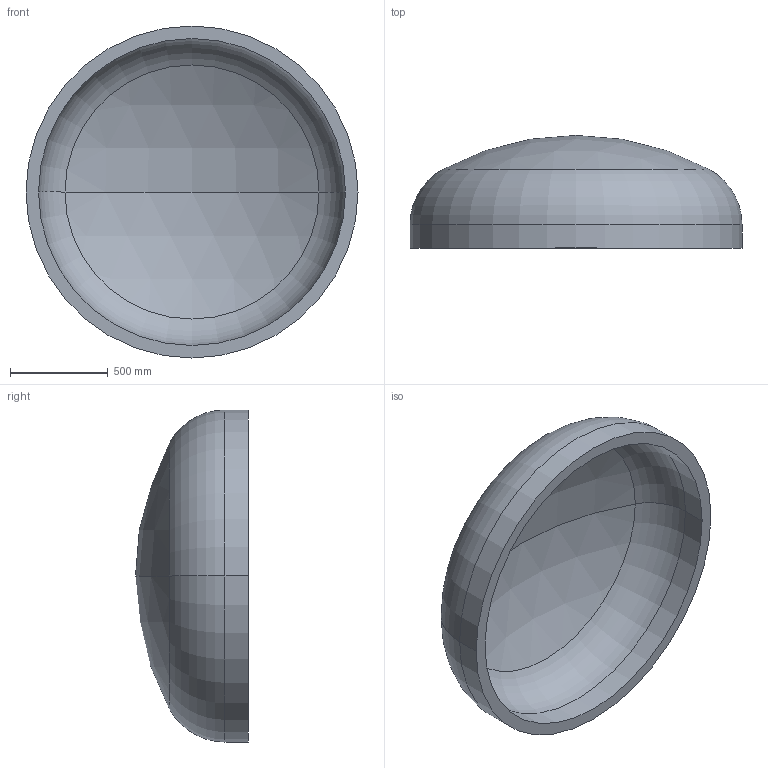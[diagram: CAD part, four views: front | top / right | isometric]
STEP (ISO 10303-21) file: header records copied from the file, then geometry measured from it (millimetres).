
FILE_DESCRIPTION (( 'STEP AP203' ), '1' );
FILE_NAME ('DIN 28013 Korbbogenform_-_Boden DIN 28013 - 1700 x 120 - I - s=64.step', '2016-07-01T11:57:01', ( '' ), ( '' ), 'SwSTEP 2.0', 'SolidWorks 2013', '' );
FILE_SCHEMA (( 'CONFIG_CONTROL_DESIGN' ));
Length unit declared in the file: millimetre
Products named in the file (1): DIN 28013 Korbbogenform_-_Boden DIN 28013 - 1700 x 120 - I - s=64
Bounding box: 1700 x 577.91 x 1700 mm (x, y, z)
Volume: 230802223.9 mm3; surface area: 7550083.4 mm2
Topology: 1 solids, 1 shells, 13 faces, 24 edges, 14 vertices
Faces by surface type: torus 4, cylinder 4, sphere 4, plane 1
Entity records: 407 total; most frequent: DIRECTION 72, CARTESIAN_POINT 52, ORIENTED_EDGE 48, AXIS2_PLACEMENT_3D 34, EDGE_CURVE 24, CIRCLE 20, VERTEX_POINT 14, EDGE_LOOP 14
